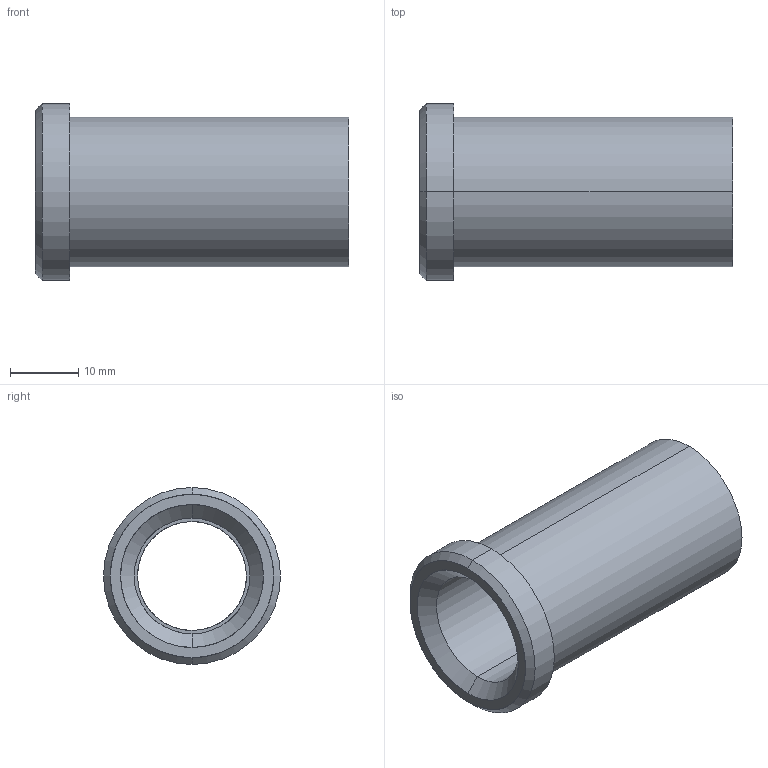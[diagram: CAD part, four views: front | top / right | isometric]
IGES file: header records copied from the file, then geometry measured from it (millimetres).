
Start section: START RECORD GO HERE.
Global section: file name: 353-16X46.igs; native system: DASSAULT SYSTEMES CATIA V5 R20 - www.3ds.com; preprocessor: CATIA Version 5 Release 20 ; author: Utente; organization: NB04-ASUS; date: 20210504.201800; units: millimetre
Bounding box: 46 x 26 x 26 mm (x, y, z)
Surface area: 6130.4 mm2 (no closed solid volume)
Topology: 0 solids, 0 shells, 18 faces, 116 edges, 116 vertices
Faces by surface type: revolution 14, plane 4
